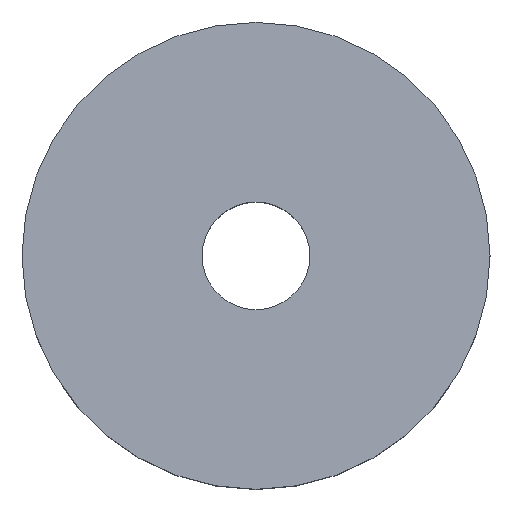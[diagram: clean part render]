
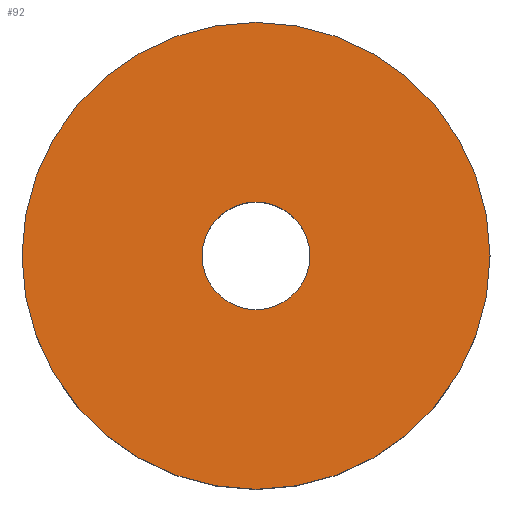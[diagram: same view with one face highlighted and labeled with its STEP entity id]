
A CAD part, left-side view. The second image highlights one B-rep face of the part: STEP entity #92.
In plain terms, the highlighted planar face has unit normal (-0.998, 0, 0.067).
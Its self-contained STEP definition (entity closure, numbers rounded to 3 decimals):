
#9 = CARTESIAN_POINT ( 'NONE',  ( 76.099, 72.395, 182.469 ) ) ;
#13 = DIRECTION ( 'NONE',  ( 0.067, 0., 0.998 ) ) ;
#18 = EDGE_CURVE ( 'NONE', #74, #191, #235, .T. ) ;
#24 = CARTESIAN_POINT ( 'NONE',  ( 78.399, 72.395, 216.641 ) ) ;
#25 = DIRECTION ( 'NONE',  ( 0.998, 0., -0.067 ) ) ;
#27 = PLANE ( 'NONE',  #133 ) ;
#30 = DIRECTION ( 'NONE',  ( 0.998, 0., -0.067 ) ) ;
#41 = CIRCLE ( 'NONE', #197, 10.25 ) ;
#42 = ORIENTED_EDGE ( 'NONE', *, *, #18, .F. ) ;
#48 = CARTESIAN_POINT ( 'NONE',  ( 74.723, 72.395, 162.015 ) ) ;
#54 = EDGE_LOOP ( 'NONE', ( #57, #122 ) ) ;
#57 = ORIENTED_EDGE ( 'NONE', *, *, #59, .F. ) ;
#59 = EDGE_CURVE ( 'NONE', #64, #104, #107, .T. ) ;
#64 = VERTEX_POINT ( 'NONE', #24 ) ;
#74 = VERTEX_POINT ( 'NONE', #9 ) ;
#75 = CIRCLE ( 'NONE', #155, 44.5 ) ;
#89 = DIRECTION ( 'NONE',  ( 0.067, 0., 0.998 ) ) ;
#92 = ADVANCED_FACE ( 'NONE', ( #232, #249 ), #27, .F. ) ;
#93 = DIRECTION ( 'NONE',  ( 0.067, 0., 0.998 ) ) ;
#104 = VERTEX_POINT ( 'NONE', #210 ) ;
#105 = EDGE_CURVE ( 'NONE', #104, #64, #75, .T. ) ;
#107 = CIRCLE ( 'NONE', #110, 44.5 ) ;
#110 = AXIS2_PLACEMENT_3D ( 'NONE', #149, #30, #93 ) ;
#122 = ORIENTED_EDGE ( 'NONE', *, *, #105, .F. ) ;
#133 = AXIS2_PLACEMENT_3D ( 'NONE', #148, #25, #146 ) ;
#140 = EDGE_CURVE ( 'NONE', #191, #74, #41, .T. ) ;
#141 = EDGE_LOOP ( 'NONE', ( #42, #233 ) ) ;
#146 = DIRECTION ( 'NONE',  ( -0.067, 0., -0.998 ) ) ;
#148 = CARTESIAN_POINT ( 'NONE',  ( 75.411, 72.395, 172.242 ) ) ;
#149 = CARTESIAN_POINT ( 'NONE',  ( 75.411, 72.395, 172.242 ) ) ;
#155 = AXIS2_PLACEMENT_3D ( 'NONE', #212, #226, #211 ) ;
#177 = DIRECTION ( 'NONE',  ( -0.998, 0., 0.067 ) ) ;
#191 = VERTEX_POINT ( 'NONE', #48 ) ;
#197 = AXIS2_PLACEMENT_3D ( 'NONE', #215, #217, #13 ) ;
#210 = CARTESIAN_POINT ( 'NONE',  ( 72.423, 72.395, 127.842 ) ) ;
#211 = DIRECTION ( 'NONE',  ( 0.067, 0., 0.998 ) ) ;
#212 = CARTESIAN_POINT ( 'NONE',  ( 75.411, 72.395, 172.242 ) ) ;
#215 = CARTESIAN_POINT ( 'NONE',  ( 75.411, 72.395, 172.242 ) ) ;
#217 = DIRECTION ( 'NONE',  ( -0.998, 0., 0.067 ) ) ;
#219 = AXIS2_PLACEMENT_3D ( 'NONE', #227, #177, #89 ) ;
#226 = DIRECTION ( 'NONE',  ( 0.998, 0., -0.067 ) ) ;
#227 = CARTESIAN_POINT ( 'NONE',  ( 75.411, 72.395, 172.242 ) ) ;
#232 = FACE_BOUND ( 'NONE', #141, .T. ) ;
#233 = ORIENTED_EDGE ( 'NONE', *, *, #140, .F. ) ;
#235 = CIRCLE ( 'NONE', #219, 10.25 ) ;
#249 = FACE_OUTER_BOUND ( 'NONE', #54, .T. ) ;
